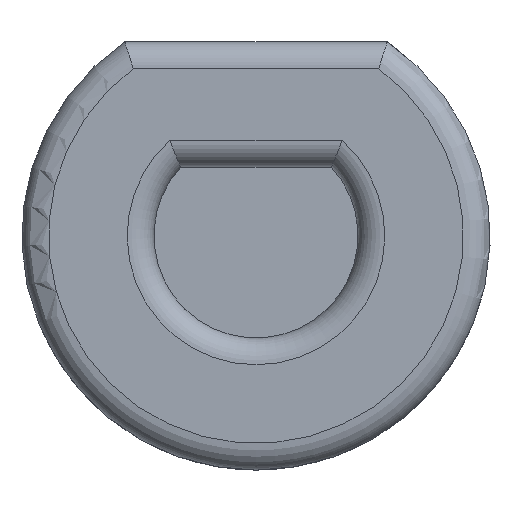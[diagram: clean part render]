
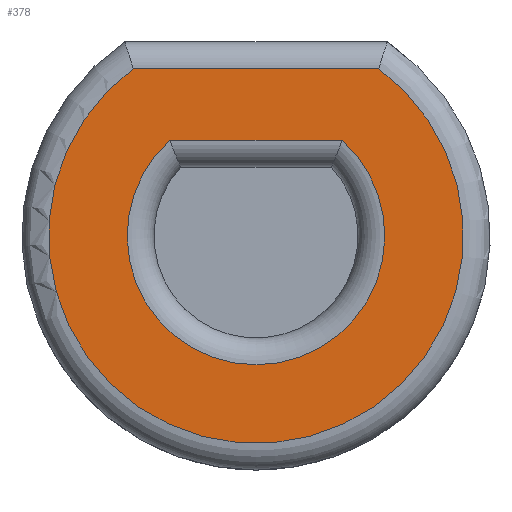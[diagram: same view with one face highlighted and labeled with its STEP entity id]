
A CAD part, front view. The second image highlights one B-rep face of the part: STEP entity #378.
In plain terms, the highlighted planar face has unit normal (0, -1, 0).
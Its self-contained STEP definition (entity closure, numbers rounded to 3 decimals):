
#71 = TOROIDAL_SURFACE('',#72,3.1,0.4);
#72 = AXIS2_PLACEMENT_3D('',#73,#74,#75);
#73 = CARTESIAN_POINT('',(0.,5.67,0.));
#74 = DIRECTION('',(0.,-1.,0.));
#75 = DIRECTION('',(0.56,0.,0.829));
#169 = CYLINDRICAL_SURFACE('',#170,0.4);
#170 = AXIS2_PLACEMENT_3D('',#171,#172,#173);
#171 = CARTESIAN_POINT('',(1.96,5.67,2.5));
#172 = DIRECTION('',(-1.,0.,0.));
#173 = DIRECTION('',(0.,0.,1.));
#185 = VERTEX_POINT('',#186);
#186 = CARTESIAN_POINT('',(1.833,5.27,2.5));
#236 = VERTEX_POINT('',#237);
#237 = CARTESIAN_POINT('',(-1.833,5.27,2.5));
#285 = EDGE_CURVE('',#185,#236,#286,.T.);
#286 = SURFACE_CURVE('',#287,(#292,#299),.PCURVE_S1.);
#287 = CIRCLE('',#288,3.1);
#288 = AXIS2_PLACEMENT_3D('',#289,#290,#291);
#289 = CARTESIAN_POINT('',(0.,5.27,0.));
#290 = DIRECTION('',(0.,1.,0.));
#291 = DIRECTION('',(0.56,0.,0.829));
#292 = PCURVE('',#71,#293);
#293 = DEFINITIONAL_REPRESENTATION('',(#294),#298);
#294 = LINE('',#295,#296);
#295 = CARTESIAN_POINT('',(-0.,1.571));
#296 = VECTOR('',#297,1.);
#297 = DIRECTION('',(-1.,0.));
#298 = ( GEOMETRIC_REPRESENTATION_CONTEXT(2) 
PARAMETRIC_REPRESENTATION_CONTEXT() REPRESENTATION_CONTEXT('2D SPACE',''
  ) );
#299 = PCURVE('',#300,#305);
#300 = PLANE('',#301);
#301 = AXIS2_PLACEMENT_3D('',#302,#303,#304);
#302 = CARTESIAN_POINT('',(0.,5.27,0.));
#303 = DIRECTION('',(0.,-1.,0.));
#304 = DIRECTION('',(1.,0.,0.));
#305 = DEFINITIONAL_REPRESENTATION('',(#306),#314);
#306 = ( BOUNDED_CURVE() B_SPLINE_CURVE(2,(#307,#308,#309,#310,#311,#312
,#313),.UNSPECIFIED.,.T.,.F.) B_SPLINE_CURVE_WITH_KNOTS((1,2,2,2,2,1),(
    -2.094,0.,2.094,4.189,6.283,
8.378),.UNSPECIFIED.) CURVE() GEOMETRIC_REPRESENTATION_ITEM() 
RATIONAL_B_SPLINE_CURVE((1.,0.5,1.,0.5,1.,0.5,1.)) REPRESENTATION_ITEM(
  '') );
#307 = CARTESIAN_POINT('',(1.736,2.569));
#308 = CARTESIAN_POINT('',(6.185,-0.438));
#309 = CARTESIAN_POINT('',(1.357,-2.787));
#310 = CARTESIAN_POINT('',(-3.471,-5.137));
#311 = CARTESIAN_POINT('',(-3.092,0.219));
#312 = CARTESIAN_POINT('',(-2.713,5.575));
#313 = CARTESIAN_POINT('',(1.736,2.569));
#314 = ( GEOMETRIC_REPRESENTATION_CONTEXT(2) 
PARAMETRIC_REPRESENTATION_CONTEXT() REPRESENTATION_CONTEXT('2D SPACE',''
  ) );
#356 = EDGE_CURVE('',#185,#236,#357,.T.);
#357 = SURFACE_CURVE('',#358,(#362,#369),.PCURVE_S1.);
#358 = LINE('',#359,#360);
#359 = CARTESIAN_POINT('',(1.96,5.27,2.5));
#360 = VECTOR('',#361,1.);
#361 = DIRECTION('',(-1.,0.,0.));
#362 = PCURVE('',#169,#363);
#363 = DEFINITIONAL_REPRESENTATION('',(#364),#368);
#364 = LINE('',#365,#366);
#365 = CARTESIAN_POINT('',(-1.571,0.));
#366 = VECTOR('',#367,1.);
#367 = DIRECTION('',(-0.,1.));
#368 = ( GEOMETRIC_REPRESENTATION_CONTEXT(2) 
PARAMETRIC_REPRESENTATION_CONTEXT() REPRESENTATION_CONTEXT('2D SPACE',''
  ) );
#369 = PCURVE('',#300,#370);
#370 = DEFINITIONAL_REPRESENTATION('',(#371),#375);
#371 = LINE('',#372,#373);
#372 = CARTESIAN_POINT('',(1.96,2.5));
#373 = VECTOR('',#374,1.);
#374 = DIRECTION('',(-1.,0.));
#375 = ( GEOMETRIC_REPRESENTATION_CONTEXT(2) 
PARAMETRIC_REPRESENTATION_CONTEXT() REPRESENTATION_CONTEXT('2D SPACE',''
  ) );
#378 = ADVANCED_FACE('',(#379,#383),#300,.T.);
#379 = FACE_BOUND('',#380,.T.);
#380 = EDGE_LOOP('',(#381,#382));
#381 = ORIENTED_EDGE('',*,*,#285,.F.);
#382 = ORIENTED_EDGE('',*,*,#356,.T.);
#383 = FACE_BOUND('',#384,.T.);
#384 = EDGE_LOOP('',(#385,#415));
#385 = ORIENTED_EDGE('',*,*,#386,.F.);
#386 = EDGE_CURVE('',#387,#389,#391,.T.);
#387 = VERTEX_POINT('',#388);
#388 = CARTESIAN_POINT('',(1.289,5.27,1.43));
#389 = VERTEX_POINT('',#390);
#390 = CARTESIAN_POINT('',(-1.289,5.27,1.43));
#391 = SURFACE_CURVE('',#392,(#396,#403),.PCURVE_S1.);
#392 = LINE('',#393,#394);
#393 = CARTESIAN_POINT('',(1.125,5.27,1.43));
#394 = VECTOR('',#395,1.);
#395 = DIRECTION('',(-1.,0.,0.));
#396 = PCURVE('',#300,#397);
#397 = DEFINITIONAL_REPRESENTATION('',(#398),#402);
#398 = LINE('',#399,#400);
#399 = CARTESIAN_POINT('',(1.125,1.43));
#400 = VECTOR('',#401,1.);
#401 = DIRECTION('',(-1.,0.));
#402 = ( GEOMETRIC_REPRESENTATION_CONTEXT(2) 
PARAMETRIC_REPRESENTATION_CONTEXT() REPRESENTATION_CONTEXT('2D SPACE',''
  ) );
#403 = PCURVE('',#404,#409);
#404 = CYLINDRICAL_SURFACE('',#405,0.4);
#405 = AXIS2_PLACEMENT_3D('',#406,#407,#408);
#406 = CARTESIAN_POINT('',(1.125,5.67,1.43));
#407 = DIRECTION('',(-1.,0.,0.));
#408 = DIRECTION('',(0.,-1.,0.));
#409 = DEFINITIONAL_REPRESENTATION('',(#410),#414);
#410 = LINE('',#411,#412);
#411 = CARTESIAN_POINT('',(-0.,0.));
#412 = VECTOR('',#413,1.);
#413 = DIRECTION('',(-0.,1.));
#414 = ( GEOMETRIC_REPRESENTATION_CONTEXT(2) 
PARAMETRIC_REPRESENTATION_CONTEXT() REPRESENTATION_CONTEXT('2D SPACE',''
  ) );
#415 = ORIENTED_EDGE('',*,*,#416,.T.);
#416 = EDGE_CURVE('',#387,#389,#417,.T.);
#417 = SURFACE_CURVE('',#418,(#423,#434),.PCURVE_S1.);
#418 = CIRCLE('',#419,1.925);
#419 = AXIS2_PLACEMENT_3D('',#420,#421,#422);
#420 = CARTESIAN_POINT('',(0.,5.27,0.));
#421 = DIRECTION('',(0.,1.,0.));
#422 = DIRECTION('',(0.737,0.,0.675));
#423 = PCURVE('',#300,#424);
#424 = DEFINITIONAL_REPRESENTATION('',(#425),#433);
#425 = ( BOUNDED_CURVE() B_SPLINE_CURVE(2,(#426,#427,#428,#429,#430,#431
,#432),.UNSPECIFIED.,.T.,.F.) B_SPLINE_CURVE_WITH_KNOTS((1,2,2,2,2,1),(
    -2.094,0.,2.094,4.189,6.283,
8.378),.UNSPECIFIED.) CURVE() GEOMETRIC_REPRESENTATION_ITEM() 
RATIONAL_B_SPLINE_CURVE((1.,0.5,1.,0.5,1.,0.5,1.)) REPRESENTATION_ITEM(
  '') );
#426 = CARTESIAN_POINT('',(1.42,1.3));
#427 = CARTESIAN_POINT('',(3.672,-1.159));
#428 = CARTESIAN_POINT('',(0.416,-1.879));
#429 = CARTESIAN_POINT('',(-2.839,-2.6));
#430 = CARTESIAN_POINT('',(-1.836,0.579));
#431 = CARTESIAN_POINT('',(-0.832,3.759));
#432 = CARTESIAN_POINT('',(1.42,1.3));
#433 = ( GEOMETRIC_REPRESENTATION_CONTEXT(2) 
PARAMETRIC_REPRESENTATION_CONTEXT() REPRESENTATION_CONTEXT('2D SPACE',''
  ) );
#434 = PCURVE('',#435,#440);
#435 = TOROIDAL_SURFACE('',#436,1.925,0.4);
#436 = AXIS2_PLACEMENT_3D('',#437,#438,#439);
#437 = CARTESIAN_POINT('',(0.,5.67,0.));
#438 = DIRECTION('',(0.,-1.,0.));
#439 = DIRECTION('',(0.737,0.,0.675));
#440 = DEFINITIONAL_REPRESENTATION('',(#441),#445);
#441 = LINE('',#442,#443);
#442 = CARTESIAN_POINT('',(-0.,1.571));
#443 = VECTOR('',#444,1.);
#444 = DIRECTION('',(-1.,0.));
#445 = ( GEOMETRIC_REPRESENTATION_CONTEXT(2) 
PARAMETRIC_REPRESENTATION_CONTEXT() REPRESENTATION_CONTEXT('2D SPACE',''
  ) );
